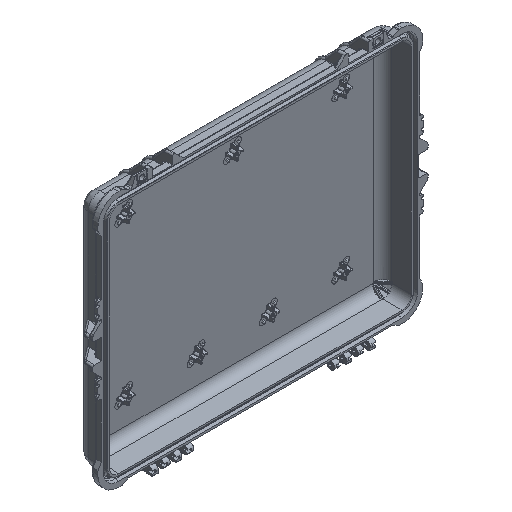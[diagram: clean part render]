
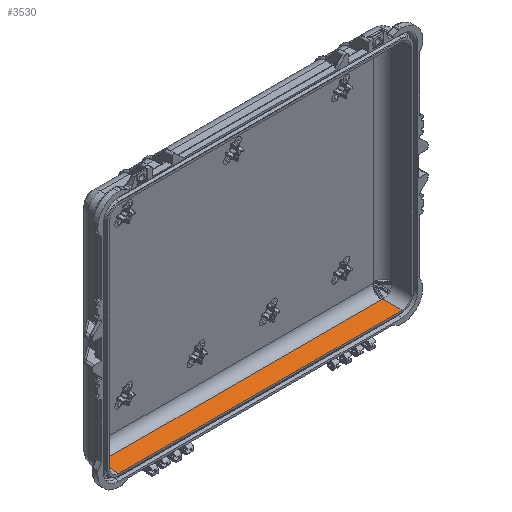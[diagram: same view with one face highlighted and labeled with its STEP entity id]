
A CAD part, isometric view. The second image highlights one B-rep face of the part: STEP entity #3530.
In plain terms, the highlighted planar face has unit normal (0, -0.035, 0.999).
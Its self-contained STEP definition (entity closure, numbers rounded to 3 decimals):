
#511 = DIRECTION ( 'NONE',  ( 0.035, -0.999, -0.035 ) ) ;
#543 = CARTESIAN_POINT ( 'NONE',  ( -10.298, 1.333, -8.538 ) ) ;
#1020 = CARTESIAN_POINT ( 'NONE',  ( 10.394, 1.333, -8.538 ) ) ;
#2064 = LINE ( 'NONE', #1020, #98267 ) ;
#3057 = ORIENTED_EDGE ( 'NONE', *, *, #64141, .F. ) ;
#3530 = ADVANCED_FACE ( 'NONE', ( #68590 ), #36137, .F. ) ;
#4079 = CARTESIAN_POINT ( 'NONE',  ( -10.44, 0., -8.585 ) ) ;
#4372 = CARTESIAN_POINT ( 'NONE',  ( -10.308, 1.384, -8.537 ) ) ;
#4432 =( BOUNDED_CURVE ( )  B_SPLINE_CURVE ( 3, ( #10911, #35496, #99419, #19802 ),
 .UNSPECIFIED., .F., .T. ) 
 B_SPLINE_CURVE_WITH_KNOTS ( ( 4, 4 ),
 ( 1.955, 3.136 ),
 .UNSPECIFIED. ) 
 CURVE ( )  GEOMETRIC_REPRESENTATION_ITEM ( )  RATIONAL_B_SPLINE_CURVE ( ( 1., 0.887, 0.887, 1. ) ) 
 REPRESENTATION_ITEM ( '' )  );
#6501 = DIRECTION ( 'NONE',  ( -1., 0., 0. ) ) ;
#7011 = CARTESIAN_POINT ( 'NONE',  ( 10.392, 1.384, -8.537 ) ) ;
#7131 = VERTEX_POINT ( 'NONE', #89375 ) ;
#7628 = VECTOR ( 'NONE', #6501, 39.37 ) ;
#9443 = ORIENTED_EDGE ( 'NONE', *, *, #12967, .F. ) ;
#9647 = VECTOR ( 'NONE', #51233, 39.37 ) ;
#10911 = CARTESIAN_POINT ( 'NONE',  ( 10.308, 1.384, -8.537 ) ) ;
#12967 = EDGE_CURVE ( 'NONE', #98804, #96542, #72292, .T. ) ;
#14689 = EDGE_CURVE ( 'NONE', #83889, #98804, #28183, .T. ) ;
#15100 = ORIENTED_EDGE ( 'NONE', *, *, #98541, .F. ) ;
#16272 = CARTESIAN_POINT ( 'NONE',  ( -10.36, 1.333, -8.538 ) ) ;
#17547 = EDGE_CURVE ( 'NONE', #96542, #66595, #69112, .T. ) ;
#17683 = CARTESIAN_POINT ( 'NONE',  ( -10.394, 1.333, -8.538 ) ) ;
#19780 = VERTEX_POINT ( 'NONE', #100813 ) ;
#19802 = CARTESIAN_POINT ( 'NONE',  ( 10.36, 1.333, -8.538 ) ) ;
#21045 = ORIENTED_EDGE ( 'NONE', *, *, #17547, .F. ) ;
#21719 = LINE ( 'NONE', #7011, #7628 ) ;
#25767 = CARTESIAN_POINT ( 'NONE',  ( 11.33, 0., -8.585 ) ) ;
#28183 = LINE ( 'NONE', #28709, #9647 ) ;
#28709 = CARTESIAN_POINT ( 'NONE',  ( -10.44, 0., -8.585 ) ) ;
#32739 = VERTEX_POINT ( 'NONE', #95991 ) ;
#35496 = CARTESIAN_POINT ( 'NONE',  ( 10.317, 1.352, -8.538 ) ) ;
#36137 = PLANE ( 'NONE',  #99405 ) ;
#40369 = ORIENTED_EDGE ( 'NONE', *, *, #41088, .F. ) ;
#40940 = DIRECTION ( 'NONE',  ( -1., 0., 0. ) ) ;
#41088 = EDGE_CURVE ( 'NONE', #32739, #83889, #82288, .T. ) ;
#41435 = CARTESIAN_POINT ( 'NONE',  ( 10.298, 1.333, -8.538 ) ) ;
#44522 = DIRECTION ( 'NONE',  ( 0., 0.035, -0.999 ) ) ;
#49623 = EDGE_CURVE ( 'NONE', #7131, #102529, #89582, .T. ) ;
#51233 = DIRECTION ( 'NONE',  ( 0.035, 0.999, 0.035 ) ) ;
#52399 = CARTESIAN_POINT ( 'NONE',  ( 11.33, -0.007, -8.585 ) ) ;
#53505 = ORIENTED_EDGE ( 'NONE', *, *, #49623, .T. ) ;
#59158 = VECTOR ( 'NONE', #72317, 39.37 ) ;
#59687 = DIRECTION ( 'NONE',  ( 0., 0.999, 0.035 ) ) ;
#64141 = EDGE_CURVE ( 'NONE', #19780, #102529, #4432, .T. ) ;
#66595 = VERTEX_POINT ( 'NONE', #82817 ) ;
#68590 = FACE_OUTER_BOUND ( 'NONE', #102433, .T. ) ;
#69112 =( BOUNDED_CURVE ( )  B_SPLINE_CURVE ( 3, ( #69815, #85040, #101299, #4372 ),
 .UNSPECIFIED., .F., .T. ) 
 B_SPLINE_CURVE_WITH_KNOTS ( ( 4, 4 ),
 ( 0.006, 1.186 ),
 .UNSPECIFIED. ) 
 CURVE ( )  GEOMETRIC_REPRESENTATION_ITEM ( )  RATIONAL_B_SPLINE_CURVE ( ( 1., 0.887, 0.887, 1. ) ) 
 REPRESENTATION_ITEM ( '' )  );
#69815 = CARTESIAN_POINT ( 'NONE',  ( -10.36, 1.333, -8.538 ) ) ;
#71523 = VECTOR ( 'NONE', #102221, 39.37 ) ;
#72292 = LINE ( 'NONE', #543, #71523 ) ;
#72317 = DIRECTION ( 'NONE',  ( -1., 0., 0. ) ) ;
#82288 = LINE ( 'NONE', #25767, #103605 ) ;
#82817 = CARTESIAN_POINT ( 'NONE',  ( -10.308, 1.384, -8.537 ) ) ;
#83889 = VERTEX_POINT ( 'NONE', #4079 ) ;
#85040 = CARTESIAN_POINT ( 'NONE',  ( -10.337, 1.333, -8.538 ) ) ;
#85639 = CARTESIAN_POINT ( 'NONE',  ( 10.36, 1.333, -8.538 ) ) ;
#87429 = ORIENTED_EDGE ( 'NONE', *, *, #14689, .F. ) ;
#89375 = CARTESIAN_POINT ( 'NONE',  ( 10.394, 1.333, -8.538 ) ) ;
#89582 = LINE ( 'NONE', #41435, #59158 ) ;
#92602 = EDGE_CURVE ( 'NONE', #19780, #66595, #21719, .T. ) ;
#95991 = CARTESIAN_POINT ( 'NONE',  ( 10.44, 0., -8.585 ) ) ;
#96542 = VERTEX_POINT ( 'NONE', #16272 ) ;
#98267 = VECTOR ( 'NONE', #511, 39.37 ) ;
#98541 = EDGE_CURVE ( 'NONE', #7131, #32739, #2064, .T. ) ;
#98804 = VERTEX_POINT ( 'NONE', #17683 ) ;
#99405 = AXIS2_PLACEMENT_3D ( 'NONE', #52399, #44522, #59687 ) ;
#99419 = CARTESIAN_POINT ( 'NONE',  ( 10.337, 1.333, -8.538 ) ) ;
#100813 = CARTESIAN_POINT ( 'NONE',  ( 10.308, 1.384, -8.537 ) ) ;
#101299 = CARTESIAN_POINT ( 'NONE',  ( -10.317, 1.352, -8.538 ) ) ;
#102221 = DIRECTION ( 'NONE',  ( 1., 0., 0. ) ) ;
#102433 = EDGE_LOOP ( 'NONE', ( #40369, #15100, #53505, #3057, #102970, #21045, #9443, #87429 ) ) ;
#102529 = VERTEX_POINT ( 'NONE', #85639 ) ;
#102970 = ORIENTED_EDGE ( 'NONE', *, *, #92602, .T. ) ;
#103605 = VECTOR ( 'NONE', #40940, 39.37 ) ;
